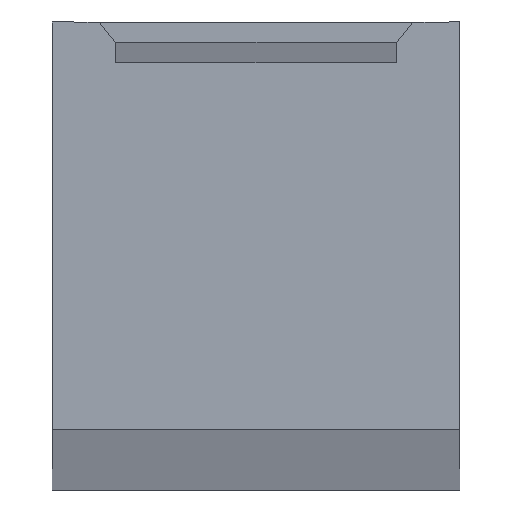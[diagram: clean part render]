
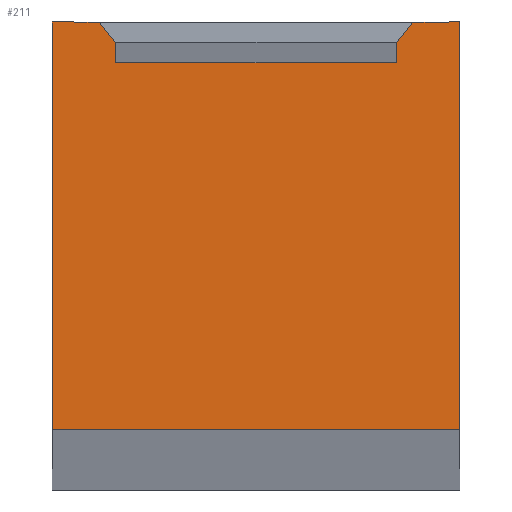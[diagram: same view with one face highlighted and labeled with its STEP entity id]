
A CAD part, top view. The second image highlights one B-rep face of the part: STEP entity #211.
In plain terms, the highlighted planar face has unit normal (0, 0, 1).
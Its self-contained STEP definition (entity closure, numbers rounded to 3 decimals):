
#3 = CARTESIAN_POINT ( 'NONE',  ( -10., -10., 855. ) ) ;
#14 = VERTEX_POINT ( 'NONE', #515 ) ;
#18 = VECTOR ( 'NONE', #383, 1000. ) ;
#22 = ORIENTED_EDGE ( 'NONE', *, *, #49, .T. ) ;
#25 = LINE ( 'NONE', #26, #122 ) ;
#26 = CARTESIAN_POINT ( 'NONE',  ( -6.9, 8., 855. ) ) ;
#37 = ORIENTED_EDGE ( 'NONE', *, *, #288, .T. ) ;
#49 = EDGE_CURVE ( 'NONE', #322, #261, #70, .T. ) ;
#55 = VERTEX_POINT ( 'NONE', #460 ) ;
#70 = LINE ( 'NONE', #483, #625 ) ;
#73 = LINE ( 'NONE', #399, #316 ) ;
#95 = CARTESIAN_POINT ( 'NONE',  ( -6.9, 9., 855. ) ) ;
#108 = CARTESIAN_POINT ( 'NONE',  ( 0., 0., 855. ) ) ;
#110 = EDGE_CURVE ( 'NONE', #55, #14, #576, .T. ) ;
#113 = EDGE_LOOP ( 'NONE', ( #153, #608, #37, #558, #22, #119, #188, #305, #390, #329 ) ) ;
#115 = CARTESIAN_POINT ( 'NONE',  ( 6.9, 9., 855. ) ) ;
#119 = ORIENTED_EDGE ( 'NONE', *, *, #566, .F. ) ;
#122 = VECTOR ( 'NONE', #287, 1000. ) ;
#136 = VECTOR ( 'NONE', #630, 1000. ) ;
#137 = VECTOR ( 'NONE', #171, 1000. ) ;
#144 = EDGE_CURVE ( 'NONE', #445, #530, #205, .T. ) ;
#147 = VERTEX_POINT ( 'NONE', #115 ) ;
#148 = CARTESIAN_POINT ( 'NONE',  ( -10., 10., 855. ) ) ;
#153 = ORIENTED_EDGE ( 'NONE', *, *, #643, .T. ) ;
#169 = DIRECTION ( 'NONE',  ( 1., 0., 0. ) ) ;
#171 = DIRECTION ( 'NONE',  ( -0.625, -0.781, 0. ) ) ;
#188 = ORIENTED_EDGE ( 'NONE', *, *, #226, .F. ) ;
#193 = CARTESIAN_POINT ( 'NONE',  ( -10., 10., 855. ) ) ;
#201 = LINE ( 'NONE', #148, #447 ) ;
#205 = LINE ( 'NONE', #221, #474 ) ;
#211 = ADVANCED_FACE ( 'NONE', ( #228 ), #464, .T. ) ;
#221 = CARTESIAN_POINT ( 'NONE',  ( -10., 10., 855. ) ) ;
#226 = EDGE_CURVE ( 'NONE', #14, #573, #371, .T. ) ;
#228 = FACE_OUTER_BOUND ( 'NONE', #113, .T. ) ;
#254 = DIRECTION ( 'NONE',  ( 0., 0., 1. ) ) ;
#261 = VERTEX_POINT ( 'NONE', #408 ) ;
#278 = VERTEX_POINT ( 'NONE', #381 ) ;
#283 = CARTESIAN_POINT ( 'NONE',  ( 7.7, 10., 855. ) ) ;
#284 = EDGE_CURVE ( 'NONE', #530, #55, #386, .T. ) ;
#287 = DIRECTION ( 'NONE',  ( -1., 0., 0. ) ) ;
#288 = EDGE_CURVE ( 'NONE', #278, #482, #25, .T. ) ;
#291 = EDGE_CURVE ( 'NONE', #482, #322, #469, .T. ) ;
#305 = ORIENTED_EDGE ( 'NONE', *, *, #110, .F. ) ;
#316 = VECTOR ( 'NONE', #438, 1000. ) ;
#322 = VERTEX_POINT ( 'NONE', #95 ) ;
#323 = VECTOR ( 'NONE', #374, 1000. ) ;
#329 = ORIENTED_EDGE ( 'NONE', *, *, #144, .F. ) ;
#341 = CARTESIAN_POINT ( 'NONE',  ( -6.9, 8., 855. ) ) ;
#355 = DIRECTION ( 'NONE',  ( 1., 0., 0. ) ) ;
#371 = LINE ( 'NONE', #193, #624 ) ;
#374 = DIRECTION ( 'NONE',  ( -1., 0., 0. ) ) ;
#381 = CARTESIAN_POINT ( 'NONE',  ( 6.9, 8., 855. ) ) ;
#383 = DIRECTION ( 'NONE',  ( 0., 1., 0. ) ) ;
#386 = LINE ( 'NONE', #481, #136 ) ;
#390 = ORIENTED_EDGE ( 'NONE', *, *, #284, .F. ) ;
#392 = DIRECTION ( 'NONE',  ( 0., 1., 0. ) ) ;
#399 = CARTESIAN_POINT ( 'NONE',  ( 6.9, 9., 855. ) ) ;
#400 = AXIS2_PLACEMENT_3D ( 'NONE', #108, #254, #546 ) ;
#408 = CARTESIAN_POINT ( 'NONE',  ( -7.7, 10., 855. ) ) ;
#438 = DIRECTION ( 'NONE',  ( 0., -1., 0. ) ) ;
#445 = VERTEX_POINT ( 'NONE', #283 ) ;
#447 = VECTOR ( 'NONE', #355, 1000. ) ;
#460 = CARTESIAN_POINT ( 'NONE',  ( 10., -10., 855. ) ) ;
#464 = PLANE ( 'NONE',  #400 ) ;
#469 = LINE ( 'NONE', #580, #18 ) ;
#473 = CARTESIAN_POINT ( 'NONE',  ( 7.7, 10., 855. ) ) ;
#474 = VECTOR ( 'NONE', #169, 1000. ) ;
#481 = CARTESIAN_POINT ( 'NONE',  ( 10., 10., 855. ) ) ;
#482 = VERTEX_POINT ( 'NONE', #341 ) ;
#483 = CARTESIAN_POINT ( 'NONE',  ( -7.7, 10., 855. ) ) ;
#499 = CARTESIAN_POINT ( 'NONE',  ( -10., 10., 855. ) ) ;
#515 = CARTESIAN_POINT ( 'NONE',  ( -10., -10., 855. ) ) ;
#530 = VERTEX_POINT ( 'NONE', #532 ) ;
#532 = CARTESIAN_POINT ( 'NONE',  ( 10., 10., 855. ) ) ;
#543 = EDGE_CURVE ( 'NONE', #147, #278, #73, .T. ) ;
#546 = DIRECTION ( 'NONE',  ( 1., 0., 0. ) ) ;
#558 = ORIENTED_EDGE ( 'NONE', *, *, #291, .T. ) ;
#566 = EDGE_CURVE ( 'NONE', #573, #261, #201, .T. ) ;
#573 = VERTEX_POINT ( 'NONE', #499 ) ;
#576 = LINE ( 'NONE', #3, #323 ) ;
#580 = CARTESIAN_POINT ( 'NONE',  ( -6.9, 9., 855. ) ) ;
#608 = ORIENTED_EDGE ( 'NONE', *, *, #543, .T. ) ;
#624 = VECTOR ( 'NONE', #392, 1000. ) ;
#625 = VECTOR ( 'NONE', #626, 1000. ) ;
#626 = DIRECTION ( 'NONE',  ( -0.625, 0.781, 0. ) ) ;
#630 = DIRECTION ( 'NONE',  ( 0., -1., 0. ) ) ;
#639 = LINE ( 'NONE', #473, #137 ) ;
#643 = EDGE_CURVE ( 'NONE', #445, #147, #639, .T. ) ;
